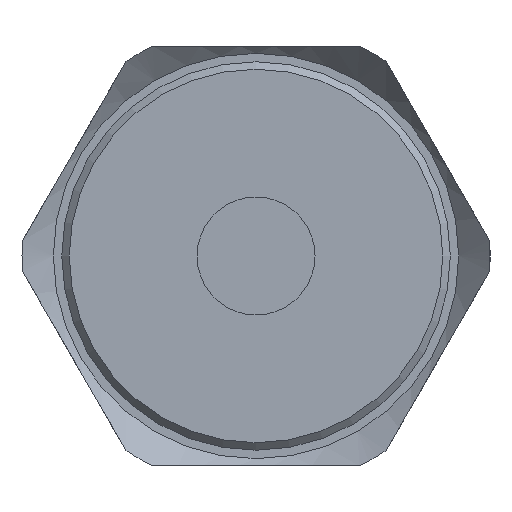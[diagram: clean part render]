
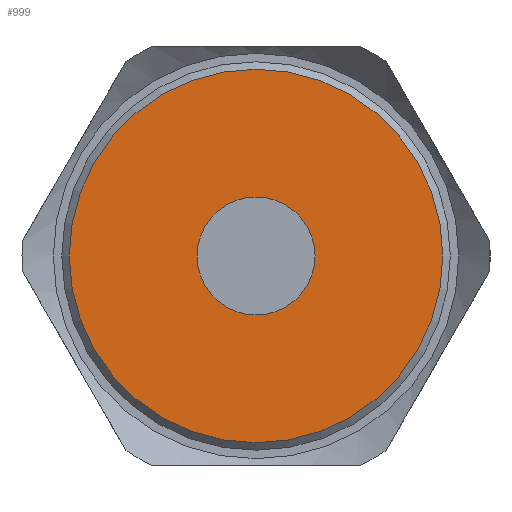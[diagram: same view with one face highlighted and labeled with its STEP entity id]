
A CAD part, left-side view. The second image highlights one B-rep face of the part: STEP entity #999.
In plain terms, the highlighted planar face has unit normal (1, 0, 0).
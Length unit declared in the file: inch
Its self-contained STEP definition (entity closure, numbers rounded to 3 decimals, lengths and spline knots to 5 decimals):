
#66=PLANE('',#1167);
#210=FACE_OUTER_BOUND('',#275,.T.);
#275=EDGE_LOOP('',(#886,#887));
#367=CIRCLE('',#1165,0.49855);
#368=CIRCLE('',#1166,0.49855);
#469=VERTEX_POINT('',#1809);
#470=VERTEX_POINT('',#1811);
#608=EDGE_CURVE('',#470,#469,#367,.T.);
#609=EDGE_CURVE('',#469,#470,#368,.T.);
#886=ORIENTED_EDGE('',*,*,#608,.T.);
#887=ORIENTED_EDGE('',*,*,#609,.T.);
#999=ADVANCED_FACE('',(#210),#66,.T.);
#1165=AXIS2_PLACEMENT_3D('',#1812,#1490,#1491);
#1166=AXIS2_PLACEMENT_3D('',#1813,#1492,#1493);
#1167=AXIS2_PLACEMENT_3D('',#1814,#1494,#1495);
#1490=DIRECTION('center_axis',(1.,0.,0.));
#1491=DIRECTION('ref_axis',(0.,-1.,0.));
#1492=DIRECTION('center_axis',(1.,0.,0.));
#1493=DIRECTION('ref_axis',(0.,-1.,0.));
#1494=DIRECTION('center_axis',(1.,0.,0.));
#1495=DIRECTION('ref_axis',(0.,-1.,0.));
#1809=CARTESIAN_POINT('',(-2.24556,0.59986,-0.34434));
#1811=CARTESIAN_POINT('',(-2.24556,-0.39725,-0.34434));
#1812=CARTESIAN_POINT('Origin',(-2.24556,0.1013,-0.34434));
#1813=CARTESIAN_POINT('Origin',(-2.24556,0.1013,-0.34434));
#1814=CARTESIAN_POINT('Origin',(-2.24556,0.1013,-0.34434));
